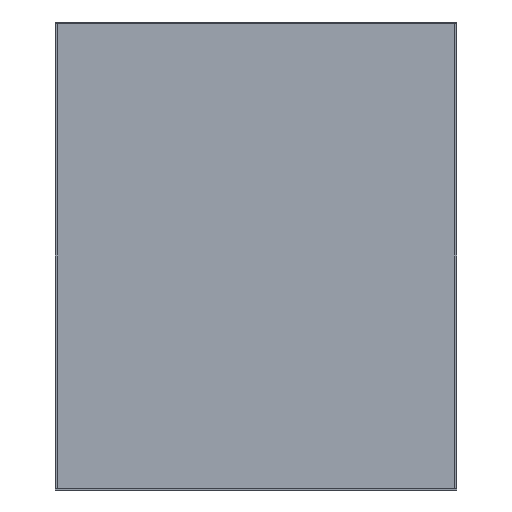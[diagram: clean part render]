
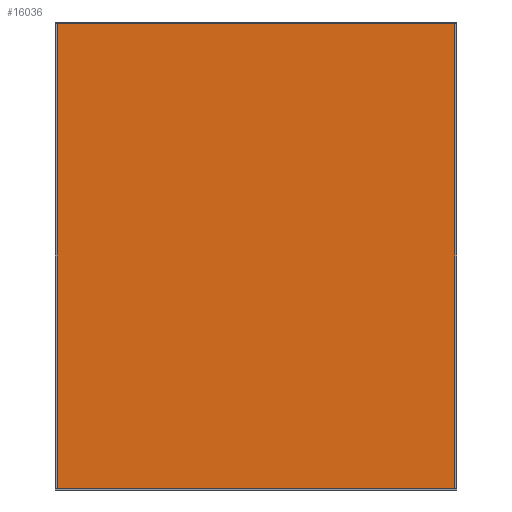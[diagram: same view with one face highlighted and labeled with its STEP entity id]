
A CAD part, front view. The second image highlights one B-rep face of the part: STEP entity #16036.
In plain terms, the highlighted planar face has unit normal (0, -1, 0).
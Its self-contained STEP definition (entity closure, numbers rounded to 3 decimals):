
#15820 = EDGE_CURVE('',#15821,#15823,#15825,.T.);
#15821 = VERTEX_POINT('',#15822);
#15822 = CARTESIAN_POINT('',(-0.155,-0.096,0.002)
  );
#15823 = VERTEX_POINT('',#15824);
#15824 = CARTESIAN_POINT('',(-0.155,-0.096,
    0.364));
#15825 = SURFACE_CURVE('',#15826,(#15830,#15842),.PCURVE_S1.);
#15826 = LINE('',#15827,#15828);
#15827 = CARTESIAN_POINT('',(-0.155,-0.096,0.002)
  );
#15828 = VECTOR('',#15829,1.);
#15829 = DIRECTION('',(0.,0.,1.));
#15830 = PCURVE('',#15831,#15836);
#15831 = PLANE('',#15832);
#15832 = AXIS2_PLACEMENT_3D('',#15833,#15834,#15835);
#15833 = CARTESIAN_POINT('',(-0.155,-0.096,0.002)
  );
#15834 = DIRECTION('',(1.,0.,0.));
#15835 = DIRECTION('',(0.,0.,1.));
#15836 = DEFINITIONAL_REPRESENTATION('',(#15837),#15841);
#15837 = LINE('',#15838,#15839);
#15838 = CARTESIAN_POINT('',(0.,0.));
#15839 = VECTOR('',#15840,1.);
#15840 = DIRECTION('',(1.,0.));
#15841 = ( GEOMETRIC_REPRESENTATION_CONTEXT(2) 
PARAMETRIC_REPRESENTATION_CONTEXT() REPRESENTATION_CONTEXT('2D SPACE',''
  ) );
#15842 = PCURVE('',#15843,#15848);
#15843 = PLANE('',#15844);
#15844 = AXIS2_PLACEMENT_3D('',#15845,#15846,#15847);
#15845 = CARTESIAN_POINT('',(-0.155,-0.096,0.002)
  );
#15846 = DIRECTION('',(0.,1.,0.));
#15847 = DIRECTION('',(0.,0.,1.));
#15848 = DEFINITIONAL_REPRESENTATION('',(#15849),#15853);
#15849 = LINE('',#15850,#15851);
#15850 = CARTESIAN_POINT('',(0.,0.));
#15851 = VECTOR('',#15852,1.);
#15852 = DIRECTION('',(1.,0.));
#15853 = ( GEOMETRIC_REPRESENTATION_CONTEXT(2) 
PARAMETRIC_REPRESENTATION_CONTEXT() REPRESENTATION_CONTEXT('2D SPACE',''
  ) );
#15871 = PLANE('',#15872);
#15872 = AXIS2_PLACEMENT_3D('',#15873,#15874,#15875);
#15873 = CARTESIAN_POINT('',(-0.155,-0.096,0.002)
  );
#15874 = DIRECTION('',(0.,0.,1.));
#15875 = DIRECTION('',(1.,0.,0.));
#15925 = PLANE('',#15926);
#15926 = AXIS2_PLACEMENT_3D('',#15927,#15928,#15929);
#15927 = CARTESIAN_POINT('',(-0.155,-0.096,
    0.364));
#15928 = DIRECTION('',(0.,0.,1.));
#15929 = DIRECTION('',(1.,0.,0.));
#15940 = EDGE_CURVE('',#15941,#15943,#15945,.T.);
#15941 = VERTEX_POINT('',#15942);
#15942 = CARTESIAN_POINT('',(0.155,-0.096,0.002)
  );
#15943 = VERTEX_POINT('',#15944);
#15944 = CARTESIAN_POINT('',(0.155,-0.096,
    0.364));
#15945 = SURFACE_CURVE('',#15946,(#15950,#15962),.PCURVE_S1.);
#15946 = LINE('',#15947,#15948);
#15947 = CARTESIAN_POINT('',(0.155,-0.096,0.002)
  );
#15948 = VECTOR('',#15949,1.);
#15949 = DIRECTION('',(0.,0.,1.));
#15950 = PCURVE('',#15951,#15956);
#15951 = PLANE('',#15952);
#15952 = AXIS2_PLACEMENT_3D('',#15953,#15954,#15955);
#15953 = CARTESIAN_POINT('',(0.155,-0.096,0.002)
  );
#15954 = DIRECTION('',(1.,0.,0.));
#15955 = DIRECTION('',(0.,0.,1.));
#15956 = DEFINITIONAL_REPRESENTATION('',(#15957),#15961);
#15957 = LINE('',#15958,#15959);
#15958 = CARTESIAN_POINT('',(0.,0.));
#15959 = VECTOR('',#15960,1.);
#15960 = DIRECTION('',(1.,0.));
#15961 = ( GEOMETRIC_REPRESENTATION_CONTEXT(2) 
PARAMETRIC_REPRESENTATION_CONTEXT() REPRESENTATION_CONTEXT('2D SPACE',''
  ) );
#15962 = PCURVE('',#15843,#15963);
#15963 = DEFINITIONAL_REPRESENTATION('',(#15964),#15968);
#15964 = LINE('',#15965,#15966);
#15965 = CARTESIAN_POINT('',(0.,0.31));
#15966 = VECTOR('',#15967,1.);
#15967 = DIRECTION('',(1.,0.));
#15968 = ( GEOMETRIC_REPRESENTATION_CONTEXT(2) 
PARAMETRIC_REPRESENTATION_CONTEXT() REPRESENTATION_CONTEXT('2D SPACE',''
  ) );
#16036 = ADVANCED_FACE('',(#16037),#15843,.F.);
#16037 = FACE_BOUND('',#16038,.F.);
#16038 = EDGE_LOOP('',(#16039,#16060,#16061,#16082));
#16039 = ORIENTED_EDGE('',*,*,#16040,.F.);
#16040 = EDGE_CURVE('',#15821,#15941,#16041,.T.);
#16041 = SURFACE_CURVE('',#16042,(#16046,#16053),.PCURVE_S1.);
#16042 = LINE('',#16043,#16044);
#16043 = CARTESIAN_POINT('',(-0.155,-0.096,0.002)
  );
#16044 = VECTOR('',#16045,1.);
#16045 = DIRECTION('',(1.,0.,0.));
#16046 = PCURVE('',#15843,#16047);
#16047 = DEFINITIONAL_REPRESENTATION('',(#16048),#16052);
#16048 = LINE('',#16049,#16050);
#16049 = CARTESIAN_POINT('',(0.,0.));
#16050 = VECTOR('',#16051,1.);
#16051 = DIRECTION('',(0.,1.));
#16052 = ( GEOMETRIC_REPRESENTATION_CONTEXT(2) 
PARAMETRIC_REPRESENTATION_CONTEXT() REPRESENTATION_CONTEXT('2D SPACE',''
  ) );
#16053 = PCURVE('',#15871,#16054);
#16054 = DEFINITIONAL_REPRESENTATION('',(#16055),#16059);
#16055 = LINE('',#16056,#16057);
#16056 = CARTESIAN_POINT('',(0.,0.));
#16057 = VECTOR('',#16058,1.);
#16058 = DIRECTION('',(1.,0.));
#16059 = ( GEOMETRIC_REPRESENTATION_CONTEXT(2) 
PARAMETRIC_REPRESENTATION_CONTEXT() REPRESENTATION_CONTEXT('2D SPACE',''
  ) );
#16060 = ORIENTED_EDGE('',*,*,#15820,.T.);
#16061 = ORIENTED_EDGE('',*,*,#16062,.T.);
#16062 = EDGE_CURVE('',#15823,#15943,#16063,.T.);
#16063 = SURFACE_CURVE('',#16064,(#16068,#16075),.PCURVE_S1.);
#16064 = LINE('',#16065,#16066);
#16065 = CARTESIAN_POINT('',(-0.155,-0.096,
    0.364));
#16066 = VECTOR('',#16067,1.);
#16067 = DIRECTION('',(1.,0.,0.));
#16068 = PCURVE('',#15843,#16069);
#16069 = DEFINITIONAL_REPRESENTATION('',(#16070),#16074);
#16070 = LINE('',#16071,#16072);
#16071 = CARTESIAN_POINT('',(0.362,0.));
#16072 = VECTOR('',#16073,1.);
#16073 = DIRECTION('',(0.,1.));
#16074 = ( GEOMETRIC_REPRESENTATION_CONTEXT(2) 
PARAMETRIC_REPRESENTATION_CONTEXT() REPRESENTATION_CONTEXT('2D SPACE',''
  ) );
#16075 = PCURVE('',#15925,#16076);
#16076 = DEFINITIONAL_REPRESENTATION('',(#16077),#16081);
#16077 = LINE('',#16078,#16079);
#16078 = CARTESIAN_POINT('',(0.,0.));
#16079 = VECTOR('',#16080,1.);
#16080 = DIRECTION('',(1.,0.));
#16081 = ( GEOMETRIC_REPRESENTATION_CONTEXT(2) 
PARAMETRIC_REPRESENTATION_CONTEXT() REPRESENTATION_CONTEXT('2D SPACE',''
  ) );
#16082 = ORIENTED_EDGE('',*,*,#15940,.F.);
